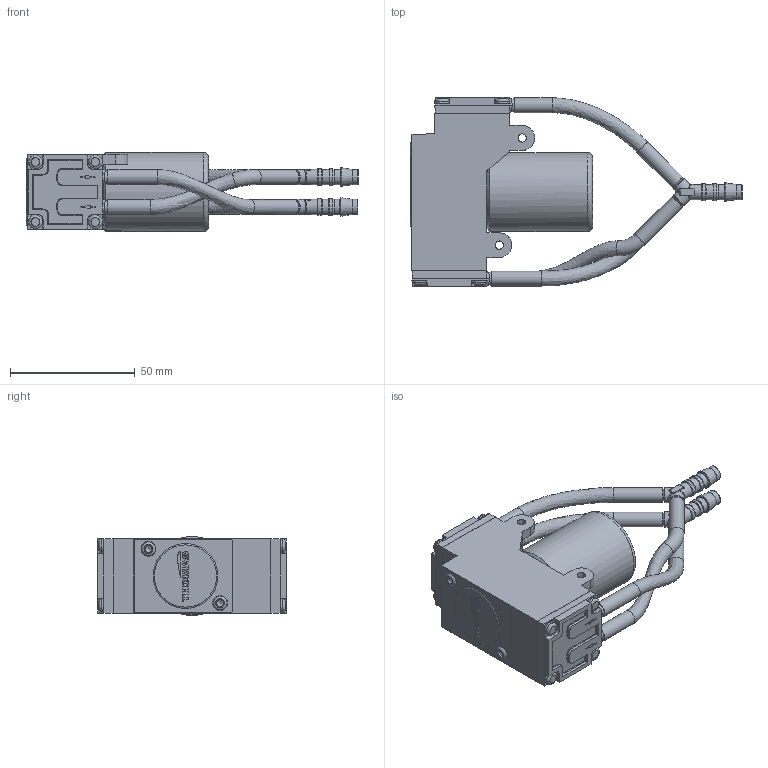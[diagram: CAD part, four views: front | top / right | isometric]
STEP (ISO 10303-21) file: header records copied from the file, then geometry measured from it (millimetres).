
FILE_DESCRIPTION (( 'STEP AP203' ), '1' );
FILE_NAME ('14200505-18.STEP', '2018-12-05T11:55:43', ( 'admin' ), ( 'Gardner Denver' ), 'SwSTEP 2.0', 'SolidWorks 2017', '' );
FILE_SCHEMA (( 'CONFIG_CONTROL_DESIGN' ));
Length unit declared in the file: inch
Products named in the file (1): 14200505-18
Bounding box: 133.15 x 75.8 x 31.7 mm (x, y, z)
Volume: 113763.6 mm3; surface area: 25181.1 mm2
Topology: 1 solids, 1 shells, 921 faces, 2545 edges, 1666 vertices
Faces by surface type: plane 662, cylinder 108, bspline 58, torus 48, cone 45
Full cylindrical faces by diameter (mm): 2.8 x2, 5.55 x8, 5.6 x1, 6 x10, 6.1 x12, 6.8 x4, 26 x1, 31.7 x1
Entity records: 29843 total; most frequent: CARTESIAN_POINT 7451, ORIENTED_EDGE 4822, DIRECTION 4179, EDGE_CURVE 2411, LINE 1893, VECTOR 1893, VERTEX_POINT 1630, AXIS2_PLACEMENT_3D 1143
